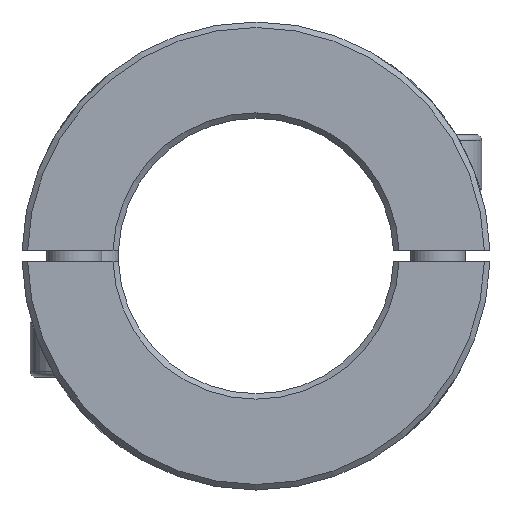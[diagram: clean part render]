
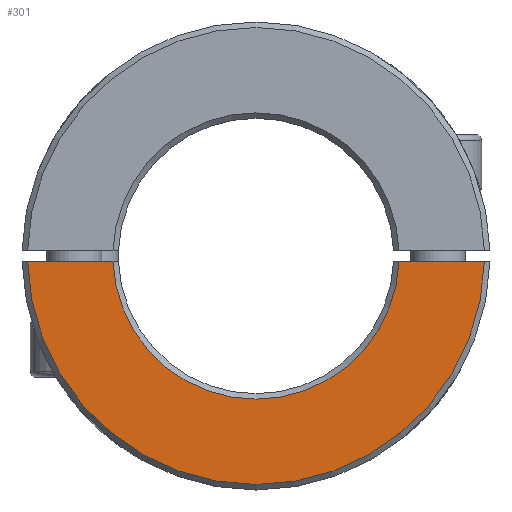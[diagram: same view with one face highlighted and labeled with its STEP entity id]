
A CAD part, front view. The second image highlights one B-rep face of the part: STEP entity #301.
In plain terms, the highlighted planar face has unit normal (0, -1, 0).
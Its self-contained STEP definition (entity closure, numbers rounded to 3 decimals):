
#301 = ADVANCED_FACE( '', ( #593 ), #594, .F. );
#593 = FACE_OUTER_BOUND( '', #929, .T. );
#594 = PLANE( '', #930 );
#929 = EDGE_LOOP( '', ( #1392, #1393, #1394, #1395 ) );
#930 = AXIS2_PLACEMENT_3D( '', #1396, #1397, #1398 );
#1392 = ORIENTED_EDGE( '', *, *, #1932, .F. );
#1393 = ORIENTED_EDGE( '', *, *, #1933, .T. );
#1394 = ORIENTED_EDGE( '', *, *, #1934, .F. );
#1395 = ORIENTED_EDGE( '', *, *, #1856, .T. );
#1396 = CARTESIAN_POINT( '', ( 0., -124., 0. ) );
#1397 = DIRECTION( '', ( 0., 1., 0. ) );
#1398 = DIRECTION( '', ( 0., 0., 1. ) );
#1856 = EDGE_CURVE( '', #2152, #2149, #2153, .F. );
#1932 = EDGE_CURVE( '', #2273, #2149, #2274, .T. );
#1933 = EDGE_CURVE( '', #2273, #2275, #2276, .T. );
#1934 = EDGE_CURVE( '', #2152, #2275, #2277, .T. );
#2149 = VERTEX_POINT( '', #2766 );
#2152 = VERTEX_POINT( '', #2772 );
#2153 = CIRCLE( '', #2773, 41.5 );
#2273 = VERTEX_POINT( '', #3519 );
#2274 = LINE( '', #3520, #3521 );
#2275 = VERTEX_POINT( '', #3522 );
#2276 = CIRCLE( '', #3523, 26. );
#2277 = LINE( '', #3524, #3525 );
#2766 = CARTESIAN_POINT( '', ( 41.488, -124., -1. ) );
#2772 = CARTESIAN_POINT( '', ( -41.488, -124., -1. ) );
#2773 = AXIS2_PLACEMENT_3D( '', #4168, #4169, #4170 );
#3519 = CARTESIAN_POINT( '', ( 25.981, -124., -1. ) );
#3520 = CARTESIAN_POINT( '', ( 0., -124., -1. ) );
#3521 = VECTOR( '', #4260, 1000. );
#3522 = CARTESIAN_POINT( '', ( -25.981, -124., -1. ) );
#3523 = AXIS2_PLACEMENT_3D( '', #4261, #4262, #4263 );
#3524 = CARTESIAN_POINT( '', ( 0., -124., -1. ) );
#3525 = VECTOR( '', #4264, 1000. );
#4168 = CARTESIAN_POINT( '', ( 0., -124., 0. ) );
#4169 = DIRECTION( '', ( 0., 1., 0. ) );
#4170 = DIRECTION( '', ( 0., 0., 1. ) );
#4260 = DIRECTION( '', ( 1., 0., 0. ) );
#4261 = CARTESIAN_POINT( '', ( 0., -124., 0. ) );
#4262 = DIRECTION( '', ( 0., 1., 0. ) );
#4263 = DIRECTION( '', ( 0., 0., 1. ) );
#4264 = DIRECTION( '', ( 1., 0., 0. ) );
